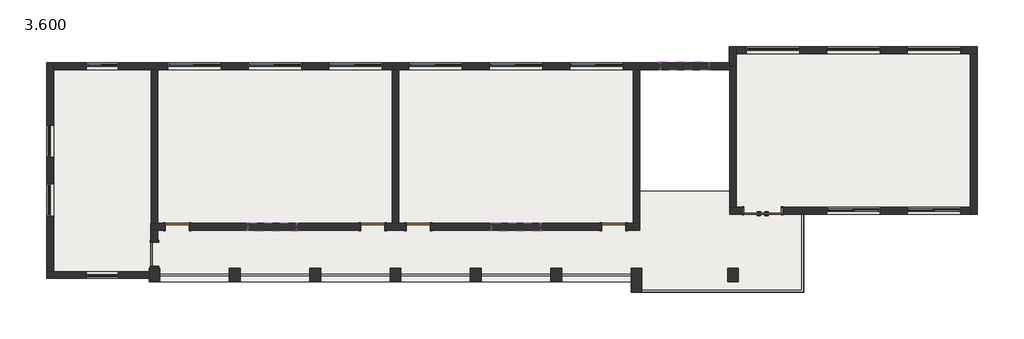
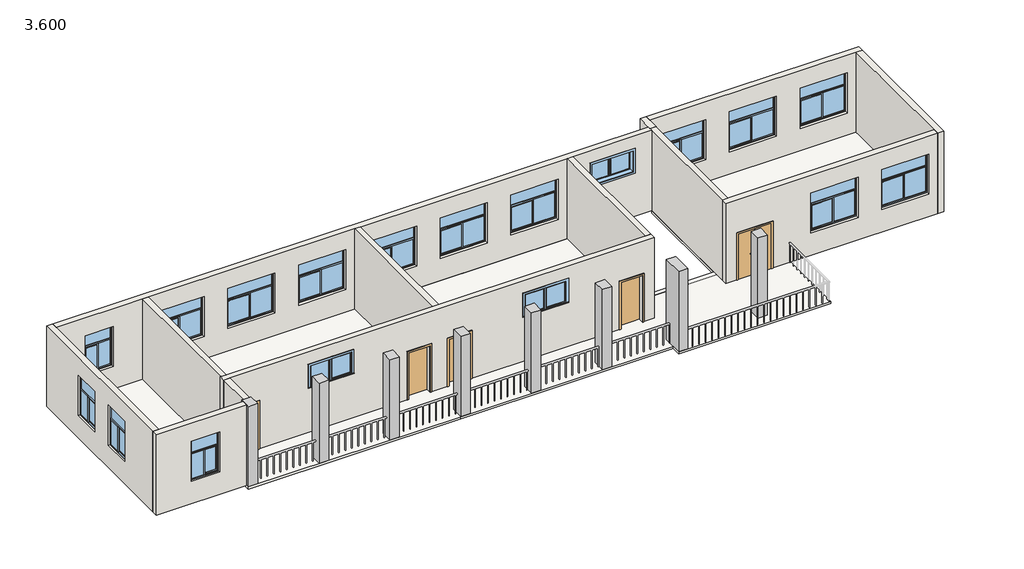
# One storey, part 1 of 2: 18 windows, 13 walls, 8 columns, 6 doors, 1 beam, 1 slab.
"""IFC4 building model written with IfcOpenShell, lengths in millimetres."""

from ifc_helpers import new_model, si_unit, frame, origin, place, context, project, spatial, polyline, outline, extrude, faceted_brep, transform, mapped, element, save
from components import beam_200mmx150mm_381acce5, column_400x500mm_a61c753e, column_400x900mm_5f92045b, m1_f3cb3123, m1_ab81c9c2, m2_54796214, c1_54542c8d, c2_93fe3833, c3_c6347dd0

model = new_model("IFC4")

# Units and contexts
model_context = context("Model", 3, world=origin())
ifc_project = project(units=[si_unit("LENGTHUNIT", "METRE", prefix="MILLI")], contexts=[model_context])

# Site, building, storey
site = spatial("IfcSite", under=ifc_project)
building = spatial("IfcBuilding", under=site)
storey = spatial("IfcBuildingStorey", under=building, Name="3.600", Elevation=3600.0)

# Beam
placement = place(None, origin())
beam_200mmx150mm_shape = beam_200mmx150mm_381acce5(model_context)
element("IfcBeam", 1, ObjectType="混凝土 - 矩形梁 : 200mmX150mm", at=placement, inside=storey, context=model_context, shape_type="MappedRepresentation", body=[
    mapped(beam_200mmx150mm_shape, transform((353.9823355, -22918.2373497, 3425.0), x_axis=(1.0, 0.0, 0.0), y_axis=(0.0, 1.0, 0.0), z_axis=(0.0, 0.0, 1.0))),
])

# Columns
element("IfcColumn", 2, ObjectType="混凝土 - 矩形 - 柱 : 400X500mm", at=placement, inside=storey, context=model_context, shape_type="Brep", body=[
    faceted_brep([(-19259.1214542, -25688.2373497, 3600.0), (-19259.1214542, -26188.2373497, 3600.0), (-19659.1214542, -26188.2373497, 3600.0), (-19659.1214542, -26068.2373497, 3600.0), (-19659.1214542, -25808.2373497, 3600.0), (-19659.1214542, -25688.2373497, 3600.0), (-19589.1214542, -25688.2373497, 3600.0), (-19329.1214542, -25688.2373497, 3600.0), (-19259.1214542, -25688.2373497, 7200.0), (-19259.1214542, -26188.2373497, 7200.0), (-19659.1214542, -26188.2373497, 7200.0), (-19659.1214542, -26068.2373497, 7200.0), (-19659.1214542, -25808.2373497, 7200.0), (-19659.1214542, -25688.2373497, 7200.0), (-19589.1214542, -25688.2373497, 7200.0), (-19329.1214542, -25688.2373497, 7200.0)], [[[0, 1, 2, 3, 4, 5, 6, 7]], [[8, 9, 1, 0]], [[9, 10, 2, 1]], [[10, 11, 12, 13, 5, 4, 3, 2]], [[13, 14, 15, 8, 0, 7, 6, 5]], [[8, 15, 14, 13, 12, 11, 10, 9]]]),
])
column_400x500mm_shape = column_400x500mm_a61c753e(model_context)
element("IfcColumn", 3, ObjectType="混凝土 - 矩形 - 柱 : 400X500mm", at=placement, inside=storey, context=model_context, shape_type="MappedRepresentation", body=[
    mapped(column_400x500mm_shape, transform((-16459.1214542, -25938.2373497, 0.0), x_axis=(1.0, 0.0, 0.0), y_axis=(0.0, 1.0, 0.0), z_axis=(0.0, 0.0, 1.0))),
])
element("IfcColumn", 4, ObjectType="混凝土 - 矩形 - 柱 : 400X500mm", at=placement, inside=storey, context=model_context, shape_type="MappedRepresentation", body=[
    mapped(column_400x500mm_shape, transform((-13459.1214542, -25938.2373497, 0.0), x_axis=(1.0, 0.0, 0.0), y_axis=(0.0, 1.0, 0.0), z_axis=(0.0, 0.0, 1.0))),
])
element("IfcColumn", 5, ObjectType="混凝土 - 矩形 - 柱 : 400X500mm", at=placement, inside=storey, context=model_context, shape_type="MappedRepresentation", body=[
    mapped(column_400x500mm_shape, transform((-10459.1214542, -25938.2373497, 0.0), x_axis=(1.0, 0.0, 0.0), y_axis=(0.0, 1.0, 0.0), z_axis=(0.0, 0.0, 1.0))),
])
element("IfcColumn", 6, ObjectType="混凝土 - 矩形 - 柱 : 400X500mm", at=placement, inside=storey, context=model_context, shape_type="MappedRepresentation", body=[
    mapped(column_400x500mm_shape, transform((-7459.1214542, -25938.2373497, 0.0), x_axis=(1.0, 0.0, 0.0), y_axis=(0.0, 1.0, 0.0), z_axis=(0.0, 0.0, 1.0))),
])
element("IfcColumn", 7, ObjectType="混凝土 - 矩形 - 柱 : 400X500mm", at=placement, inside=storey, context=model_context, shape_type="MappedRepresentation", body=[
    mapped(column_400x500mm_shape, transform((-4459.1214542, -25938.2373497, 0.0), x_axis=(1.0, 0.0, 0.0), y_axis=(0.0, 1.0, 0.0), z_axis=(0.0, 0.0, 1.0))),
])
element("IfcColumn", 8, ObjectType="混凝土 - 矩形 - 柱 : 400X500mm", at=placement, inside=storey, context=model_context, shape_type="MappedRepresentation", body=[
    mapped(column_400x500mm_shape, transform((2140.8785458, -25938.2373497, 0.0), x_axis=(1.0, 0.0, 0.0), y_axis=(0.0, 1.0, 0.0), z_axis=(0.0, 0.0, 1.0))),
])
column_400x900mm_shape = column_400x900mm_5f92045b(model_context)
element("IfcColumn", 9, ObjectType="混凝土 - 矩形 - 柱 : 400X900mm", at=placement, inside=storey, context=model_context, shape_type="MappedRepresentation", body=[
    mapped(column_400x900mm_shape, transform((-1459.1214542, -26138.2373497, 0.0), x_axis=(1.0, 0.0, 0.0), y_axis=(0.0, 1.0, 0.0), z_axis=(0.0, 0.0, 1.0))),
])

# Doors
m1_shape = m1_f3cb3123(model_context)
element("IfcDoor", 10, ObjectType="单扇 - 与墙齐 : M1", at=placement, inside=storey, context=model_context, shape_type="MappedRepresentation", body=[
    mapped(m1_shape, transform((-18609.1214542, -24138.2373497, 3600.0), x_axis=(-1.0, 0.0, 0.0), y_axis=(0.0, -1.0, 0.0), z_axis=(0.0, 0.0, 1.0))),
])
element("IfcDoor", 11, ObjectType="单扇 - 与墙齐 : M1", at=placement, inside=storey, context=model_context, shape_type="MappedRepresentation", body=[
    mapped(m1_shape, transform((-9609.1214542, -24138.2373497, 3600.0), x_axis=(-1.0, 0.0, 0.0), y_axis=(0.0, -1.0, 0.0), z_axis=(0.0, 0.0, 1.0))),
])
element("IfcDoor", 12, ObjectType="单扇 - 与墙齐 : M1", at=placement, inside=storey, context=model_context, shape_type="MappedRepresentation", body=[
    mapped(m1_shape, transform((-19459.1214542, -25168.2373497, 3600.0), x_axis=(0.0, -1.0, 0.0), y_axis=(1.0, 0.0, 0.0), z_axis=(0.0, 0.0, 1.0))),
])
m1_2_shape = m1_ab81c9c2(model_context)
element("IfcDoor", 13, ObjectType="单扇 - 与墙齐 : M1", at=placement, inside=storey, context=model_context, shape_type="MappedRepresentation", body=[
    mapped(m1_2_shape, transform((-11309.1214542, -24138.2373497, 3600.0), x_axis=(1.0, 0.0, 0.0), y_axis=(0.0, 1.0, 0.0), z_axis=(0.0, 0.0, 1.0))),
])
element("IfcDoor", 14, ObjectType="单扇 - 与墙齐 : M1", at=placement, inside=storey, context=model_context, shape_type="MappedRepresentation", body=[
    mapped(m1_2_shape, transform((-2309.1214542, -24138.2373497, 3600.0), x_axis=(1.0, 0.0, 0.0), y_axis=(0.0, 1.0, 0.0), z_axis=(0.0, 0.0, 1.0))),
])
m2_shape = m2_54796214(model_context)
element("IfcDoor", 15, ObjectType="双面嵌板木门 1 : M2", at=placement, inside=storey, context=model_context, shape_type="MappedRepresentation", body=[
    mapped(m2_shape, transform((3250.8785458, -23538.2373497, 3600.0), x_axis=(-1.0, 0.0, 0.0), y_axis=(0.0, -1.0, 0.0), z_axis=(0.0, 0.0, 1.0))),
])

# Slab
element("IfcSlab", 16, ObjectType="室内楼板", at=placement, inside=storey, context=model_context, shape_type="SweptSolid", body=[
    extrude(outline(polyline([(2260.8785458, -18268.2373497), (2260.8785458, -18138.2373497), (2270.8785458, -18138.2373497), (2270.8785458, -17668.2373497), (11010.8785458, -17668.2373497), (11010.8785458, -23408.2373497), (4790.8785458, -23408.2373497), (4790.8785458, -26588.2373497), (-1659.1214542, -26588.2373497), (-1659.1214542, -26188.2373497), (-10659.1214542, -26188.2373497), (-19659.1214542, -26188.2373497), (-19659.1214542, -25808.2373497), (-23229.1214542, -25808.2373497), (-23229.1214542, -18268.2373497), (-1339.1214542, -18268.2373497), (-1339.1214542, -22818.2373497), (2020.8785458, -22818.2373497), (2020.8785458, -18268.2373497), (2260.8785458, -18268.2373497)])), frame((0.0, 0.0, 3500.0), z_axis=(0.0, 0.0, 1.0), x_axis=(1.0, 0.0, 0.0)), (0.0, 0.0, 1.0), 100.0),
])

# Walls
element("IfcWall", 17, ObjectType="外墙", at=placement, inside=storey, context=model_context, shape_type="Brep", body=[
    faceted_brep([(-23489.1214542, -25808.2373497, 3600.0), (-23489.1214542, -25808.2373497, 7200.0), (-23229.1214542, -25808.2373497, 7200.0), (-19659.1214542, -25808.2373497, 7200.0), (-19659.1214542, -25808.2373497, 3600.0), (-23229.1214542, -25808.2373497, 3600.0), (-20809.1214542, -25808.2373497, 4600.0), (-20809.1214542, -25808.2373497, 6400.0), (-22009.1214542, -25808.2373497, 6400.0), (-22009.1214542, -25808.2373497, 4600.0), (-23489.1214542, -26068.2373497, 7200.0), (-23489.1214542, -26068.2373497, 3600.0), (-19659.1214542, -26068.2373497, 3600.0), (-19659.1214542, -26068.2373497, 7200.0), (-20809.1214542, -26068.2373497, 6400.0), (-20809.1214542, -26068.2373497, 4600.0), (-22009.1214542, -26068.2373497, 4600.0), (-22009.1214542, -26068.2373497, 6400.0)], [[[0, 1, 2, 3, 4, 5], [6, 7, 8, 9]], [[10, 11, 12, 13], [14, 15, 16, 17]], [[11, 0, 5, 4, 12]], [[1, 10, 13, 3, 2]], [[1, 0, 11, 10]], [[4, 3, 13, 12]], [[7, 6, 15, 14]], [[8, 7, 14, 17]], [[9, 8, 17, 16]], [[6, 9, 16, 15]]]),
])
element("IfcWall", 18, ObjectType="外墙", at=placement, inside=storey, context=model_context, shape_type="Brep", body=[
    faceted_brep([(-23229.1214542, -25808.2373497, 3600.0), (-23229.1214542, -18268.2373497, 3600.0), (-23229.1214542, -18008.2373497, 3600.0), (-23229.1214542, -18008.2373497, 7200.0), (-23229.1214542, -18268.2373497, 7200.0), (-23229.1214542, -25808.2373497, 7200.0), (-23229.1214542, -21538.2373497, 4600.0), (-23229.1214542, -21538.2373497, 6400.0), (-23229.1214542, -20338.2373497, 6400.0), (-23229.1214542, -20338.2373497, 4600.0), (-23229.1214542, -23738.2373497, 4600.0), (-23229.1214542, -23738.2373497, 6400.0), (-23229.1214542, -22538.2373497, 6400.0), (-23229.1214542, -22538.2373497, 4600.0), (-23489.1214542, -25808.2373497, 3600.0), (-23489.1214542, -25808.2373497, 7200.0), (-23489.1214542, -18008.2373497, 7200.0), (-23489.1214542, -18008.2373497, 3600.0), (-23489.1214542, -21538.2373497, 4600.0), (-23489.1214542, -20338.2373497, 4600.0), (-23489.1214542, -20338.2373497, 6400.0), (-23489.1214542, -21538.2373497, 6400.0), (-23489.1214542, -23738.2373497, 4600.0), (-23489.1214542, -22538.2373497, 4600.0), (-23489.1214542, -22538.2373497, 6400.0), (-23489.1214542, -23738.2373497, 6400.0)], [[[0, 1, 2, 3, 4, 5], [6, 7, 8, 9], [10, 11, 12, 13]], [[14, 15, 16, 17], [18, 19, 20, 21], [22, 23, 24, 25]], [[2, 1, 0, 14, 17]], [[5, 4, 3, 16, 15]], [[0, 5, 15, 14]], [[3, 2, 17, 16]], [[7, 6, 18, 21]], [[8, 7, 21, 20]], [[9, 8, 20, 19]], [[6, 9, 19, 18]], [[11, 10, 22, 25]], [[12, 11, 25, 24]], [[13, 12, 24, 23]], [[10, 13, 23, 22]]]),
])
element("IfcWall", 19, ObjectType="外墙", at=placement, inside=storey, context=model_context, shape_type="Brep", body=[
    faceted_brep([(-23229.1214542, -18268.2373497, 3600.0), (-19579.1214542, -18268.2373497, 3600.0), (-19339.1214542, -18268.2373497, 3600.0), (-10579.1214542, -18268.2373497, 3600.0), (-10339.1214542, -18268.2373497, 3600.0), (-1579.1214542, -18268.2373497, 3600.0), (-1339.1214542, -18268.2373497, 3600.0), (2020.8785458, -18268.2373497, 3600.0), (2020.8785458, -18268.2373497, 7200.0), (-1339.1214542, -18268.2373497, 7200.0), (-1579.1214542, -18268.2373497, 7200.0), (-10339.1214542, -18268.2373497, 7200.0), (-10579.1214542, -18268.2373497, 7200.0), (-19339.1214542, -18268.2373497, 7200.0), (-19579.1214542, -18268.2373497, 7200.0), (-23229.1214542, -18268.2373497, 7200.0), (-22009.1214542, -18268.2373497, 4600.0), (-22009.1214542, -18268.2373497, 6400.0), (-20809.1214542, -18268.2373497, 6400.0), (-20809.1214542, -18268.2373497, 4600.0), (-18959.1214542, -18268.2373497, 4600.0), (-18959.1214542, -18268.2373497, 6400.0), (-16959.1214542, -18268.2373497, 6400.0), (-16959.1214542, -18268.2373497, 4600.0), (-15959.1214542, -18268.2373497, 4600.0), (-15959.1214542, -18268.2373497, 6400.0), (-13959.1214542, -18268.2373497, 6400.0), (-13959.1214542, -18268.2373497, 4600.0), (-12959.1214542, -18268.2373497, 4600.0), (-12959.1214542, -18268.2373497, 6400.0), (-10959.1214542, -18268.2373497, 6400.0), (-10959.1214542, -18268.2373497, 4600.0), (-9959.1214542, -18268.2373497, 4600.0), (-9959.1214542, -18268.2373497, 6400.0), (-7959.1214542, -18268.2373497, 6400.0), (-7959.1214542, -18268.2373497, 4600.0), (-6959.1214542, -18268.2373497, 4600.0), (-6959.1214542, -18268.2373497, 6400.0), (-4959.1214542, -18268.2373497, 6400.0), (-4959.1214542, -18268.2373497, 4600.0), (-3959.1214542, -18268.2373497, 4600.0), (-3959.1214542, -18268.2373497, 6400.0), (-1959.1214542, -18268.2373497, 6400.0), (-1959.1214542, -18268.2373497, 4600.0), (1240.8785458, -18268.2373497, 6600.0), (1240.8785458, -18268.2373497, 5600.0), (-559.1214542, -18268.2373497, 5600.0), (-559.1214542, -18268.2373497, 6600.0), (-23229.1214542, -18008.2373497, 3600.0), (-23229.1214542, -18008.2373497, 7200.0), (2010.8785458, -18008.2373497, 7200.0), (2010.8785458, -18008.2373497, 3600.0), (-22009.1214542, -18008.2373497, 4600.0), (-20809.1214542, -18008.2373497, 4600.0), (-20809.1214542, -18008.2373497, 6400.0), (-22009.1214542, -18008.2373497, 6400.0), (-18959.1214542, -18008.2373497, 4600.0), (-16959.1214542, -18008.2373497, 4600.0), (-16959.1214542, -18008.2373497, 6400.0), (-18959.1214542, -18008.2373497, 6400.0), (-15959.1214542, -18008.2373497, 4600.0), (-13959.1214542, -18008.2373497, 4600.0), (-13959.1214542, -18008.2373497, 6400.0), (-15959.1214542, -18008.2373497, 6400.0), (-12959.1214542, -18008.2373497, 4600.0), (-10959.1214542, -18008.2373497, 4600.0), (-10959.1214542, -18008.2373497, 6400.0), (-12959.1214542, -18008.2373497, 6400.0), (-9959.1214542, -18008.2373497, 4600.0), (-7959.1214542, -18008.2373497, 4600.0), (-7959.1214542, -18008.2373497, 6400.0), (-9959.1214542, -18008.2373497, 6400.0), (-6959.1214542, -18008.2373497, 4600.0), (-4959.1214542, -18008.2373497, 4600.0), (-4959.1214542, -18008.2373497, 6400.0), (-6959.1214542, -18008.2373497, 6400.0), (-3959.1214542, -18008.2373497, 4600.0), (-1959.1214542, -18008.2373497, 4600.0), (-1959.1214542, -18008.2373497, 6400.0), (-3959.1214542, -18008.2373497, 6400.0), (1240.8785458, -18008.2373497, 6600.0), (-559.1214542, -18008.2373497, 6600.0), (-559.1214542, -18008.2373497, 5600.0), (1240.8785458, -18008.2373497, 5600.0), (2010.8785458, -18138.2373497, 3600.0), (2020.8785458, -18138.2373497, 3600.0), (2020.8785458, -18138.2373497, 7200.0), (2010.8785458, -18138.2373497, 7200.0)], [[[0, 1, 2, 3, 4, 5, 6, 7, 8, 9, 10, 11, 12, 13, 14, 15], [16, 17, 18, 19], [20, 21, 22, 23], [24, 25, 26, 27], [28, 29, 30, 31], [32, 33, 34, 35], [36, 37, 38, 39], [40, 41, 42, 43], [44, 45, 46, 47]], [[48, 49, 50, 51], [52, 53, 54, 55], [56, 57, 58, 59], [60, 61, 62, 63], [64, 65, 66, 67], [68, 69, 70, 71], [72, 73, 74, 75], [76, 77, 78, 79], [80, 81, 82, 83]], [[7, 6, 5, 4, 3, 2, 1, 0, 48, 51, 84, 85]], [[15, 14, 13, 12, 11, 10, 9, 8, 86, 87, 50, 49]], [[0, 15, 49, 48]], [[8, 7, 85, 86]], [[85, 84, 87, 86]], [[84, 51, 50, 87]], [[17, 16, 52, 55]], [[18, 17, 55, 54]], [[19, 18, 54, 53]], [[16, 19, 53, 52]], [[21, 20, 56, 59]], [[22, 21, 59, 58]], [[23, 22, 58, 57]], [[20, 23, 57, 56]], [[25, 24, 60, 63]], [[26, 25, 63, 62]], [[27, 26, 62, 61]], [[24, 27, 61, 60]], [[29, 28, 64, 67]], [[30, 29, 67, 66]], [[31, 30, 66, 65]], [[28, 31, 65, 64]], [[33, 32, 68, 71]], [[34, 33, 71, 70]], [[35, 34, 70, 69]], [[32, 35, 69, 68]], [[37, 36, 72, 75]], [[38, 37, 75, 74]], [[39, 38, 74, 73]], [[36, 39, 73, 72]], [[41, 40, 76, 79]], [[42, 41, 79, 78]], [[43, 42, 78, 77]], [[40, 43, 77, 76]], [[45, 44, 80, 83]], [[46, 45, 83, 82]], [[47, 46, 82, 81]], [[44, 47, 81, 80]]]),
])
element("IfcWall", 20, ObjectType="外墙", at=placement, inside=storey, context=model_context, shape_type="Brep", body=[
    faceted_brep([(11010.8785458, -17668.2373497, 3600.0), (11010.8785458, -23408.2373497, 3600.0), (11010.8785458, -23668.2373497, 3600.0), (11010.8785458, -23668.2373497, 7200.0), (11010.8785458, -23408.2373497, 7200.0), (11010.8785458, -17668.2373497, 7200.0), (11270.8785458, -17668.2373497, 3600.0), (11270.8785458, -17668.2373497, 7200.0), (11270.8785458, -23668.2373497, 7200.0), (11270.8785458, -23668.2373497, 3600.0)], [[[0, 1, 2, 3, 4, 5]], [[6, 7, 8, 9]], [[2, 1, 0, 6, 9]], [[5, 4, 3, 8, 7]], [[3, 2, 9, 8]], [[0, 5, 7, 6]]]),
])
element("IfcWall", 21, ObjectType="外墙", at=placement, inside=storey, context=model_context, shape_type="Brep", body=[
    faceted_brep([(2020.8785458, -23408.2373497, 7200.0), (2260.8785458, -23408.2373497, 7200.0), (11010.8785458, -23408.2373497, 7200.0), (11010.8785458, -23408.2373497, 3600.0), (4000.8785458, -23408.2373497, 3600.0), (4000.8785458, -23408.2373497, 5700.0), (2500.8785458, -23408.2373497, 5700.0), (2500.8785458, -23408.2373497, 3600.0), (2260.8785458, -23408.2373497, 3600.0), (2020.8785458, -23408.2373497, 3600.0), (8640.8785458, -23408.2373497, 4600.0), (10640.8785458, -23408.2373497, 4600.0), (10640.8785458, -23408.2373497, 6400.0), (8640.8785458, -23408.2373497, 6400.0), (5640.8785458, -23408.2373497, 4600.0), (7640.8785458, -23408.2373497, 4600.0), (7640.8785458, -23408.2373497, 6400.0), (5640.8785458, -23408.2373497, 6400.0), (11010.8785458, -23668.2373497, 7200.0), (2020.8785458, -23668.2373497, 7200.0), (2020.8785458, -23668.2373497, 3600.0), (2500.8785458, -23668.2373497, 3600.0), (2500.8785458, -23668.2373497, 5700.0), (4000.8785458, -23668.2373497, 5700.0), (4000.8785458, -23668.2373497, 3600.0), (11010.8785458, -23668.2373497, 3600.0), (8640.8785458, -23668.2373497, 4600.0), (8640.8785458, -23668.2373497, 6400.0), (10640.8785458, -23668.2373497, 6400.0), (10640.8785458, -23668.2373497, 4600.0), (5640.8785458, -23668.2373497, 4600.0), (5640.8785458, -23668.2373497, 6400.0), (7640.8785458, -23668.2373497, 6400.0), (7640.8785458, -23668.2373497, 4600.0)], [[[0, 1, 2, 3, 4, 5, 6, 7, 8, 9], [10, 11, 12, 13], [14, 15, 16, 17]], [[18, 19, 20, 21, 22, 23, 24, 25], [26, 27, 28, 29], [30, 31, 32, 33]], [[3, 25, 24, 4]], [[20, 9, 8, 7, 21]], [[2, 1, 0, 19, 18]], [[3, 2, 18, 25]], [[0, 9, 20, 19]], [[6, 22, 21, 7]], [[22, 6, 5, 23]], [[23, 5, 4, 24]], [[27, 26, 10, 13]], [[28, 27, 13, 12]], [[29, 28, 12, 11]], [[26, 29, 11, 10]], [[31, 30, 14, 17]], [[32, 31, 17, 16]], [[33, 32, 16, 15]], [[30, 33, 15, 14]]]),
])
element("IfcWall", 22, ObjectType="外墙", at=placement, inside=storey, context=model_context, shape_type="Brep", body=[
    faceted_brep([(-1339.1214542, -24008.2373497, 3600.0), (-1579.1214542, -24008.2373497, 3600.0), (-1859.1214542, -24008.2373497, 3600.0), (-1859.1214542, -24008.2373497, 5700.0), (-2759.1214542, -24008.2373497, 5700.0), (-2759.1214542, -24008.2373497, 3600.0), (-9159.1214542, -24008.2373497, 3600.0), (-9159.1214542, -24008.2373497, 5700.0), (-10059.1214542, -24008.2373497, 5700.0), (-10059.1214542, -24008.2373497, 3600.0), (-10339.1214542, -24008.2373497, 3600.0), (-10579.1214542, -24008.2373497, 3600.0), (-10859.1214542, -24008.2373497, 3600.0), (-10859.1214542, -24008.2373497, 5700.0), (-11759.1214542, -24008.2373497, 5700.0), (-11759.1214542, -24008.2373497, 3600.0), (-18159.1214542, -24008.2373497, 3600.0), (-18159.1214542, -24008.2373497, 5700.0), (-19059.1214542, -24008.2373497, 5700.0), (-19059.1214542, -24008.2373497, 3600.0), (-19339.1214542, -24008.2373497, 3600.0), (-19579.1214542, -24008.2373497, 3600.0), (-19589.1214542, -24008.2373497, 3600.0), (-19589.1214542, -24008.2373497, 7200.0), (-19579.1214542, -24008.2373497, 7200.0), (-19339.1214542, -24008.2373497, 7200.0), (-10579.1214542, -24008.2373497, 7200.0), (-10339.1214542, -24008.2373497, 7200.0), (-1579.1214542, -24008.2373497, 7200.0), (-1339.1214542, -24008.2373497, 7200.0), (-15959.1214542, -24008.2373497, 6600.0), (-15959.1214542, -24008.2373497, 5600.0), (-14159.1214542, -24008.2373497, 5600.0), (-14159.1214542, -24008.2373497, 6600.0), (-6859.1214542, -24008.2373497, 6600.0), (-6859.1214542, -24008.2373497, 5600.0), (-5059.1214542, -24008.2373497, 5600.0), (-5059.1214542, -24008.2373497, 6600.0), (-1859.1214542, -24268.2373497, 5700.0), (-1859.1214542, -24268.2373497, 3600.0), (-1339.1214542, -24268.2373497, 3600.0), (-1339.1214542, -24268.2373497, 7200.0), (-19329.1214542, -24268.2373497, 7200.0), (-19589.1214542, -24268.2373497, 7200.0), (-19589.1214542, -24268.2373497, 3600.0), (-19329.1214542, -24268.2373497, 3600.0), (-19059.1214542, -24268.2373497, 3600.0), (-19059.1214542, -24268.2373497, 5700.0), (-18159.1214542, -24268.2373497, 5700.0), (-18159.1214542, -24268.2373497, 3600.0), (-11759.1214542, -24268.2373497, 3600.0), (-11759.1214542, -24268.2373497, 5700.0), (-10859.1214542, -24268.2373497, 5700.0), (-10859.1214542, -24268.2373497, 3600.0), (-10059.1214542, -24268.2373497, 3600.0), (-10059.1214542, -24268.2373497, 5700.0), (-9159.1214542, -24268.2373497, 5700.0), (-9159.1214542, -24268.2373497, 3600.0), (-2759.1214542, -24268.2373497, 3600.0), (-2759.1214542, -24268.2373497, 5700.0), (-15959.1214542, -24268.2373497, 6600.0), (-14159.1214542, -24268.2373497, 6600.0), (-14159.1214542, -24268.2373497, 5600.0), (-15959.1214542, -24268.2373497, 5600.0), (-6859.1214542, -24268.2373497, 6600.0), (-5059.1214542, -24268.2373497, 6600.0), (-5059.1214542, -24268.2373497, 5600.0), (-6859.1214542, -24268.2373497, 5600.0)], [[[0, 1, 2, 3, 4, 5, 6, 7, 8, 9, 10, 11, 12, 13, 14, 15, 16, 17, 18, 19, 20, 21, 22, 23, 24, 25, 26, 27, 28, 29], [30, 31, 32, 33], [34, 35, 36, 37]], [[38, 39, 40, 41, 42, 43, 44, 45, 46, 47, 48, 49, 50, 51, 52, 53, 54, 55, 56, 57, 58, 59], [60, 61, 62, 63], [64, 65, 66, 67]], [[22, 21, 20, 19, 46, 45, 44]], [[50, 49, 16, 15]], [[54, 53, 12, 11, 10, 9]], [[58, 57, 6, 5]], [[40, 39, 2, 1, 0]], [[29, 28, 27, 26, 25, 24, 23, 43, 42, 41]], [[23, 22, 44, 43]], [[47, 46, 19, 18]], [[48, 47, 18, 17]], [[49, 48, 17, 16]], [[31, 30, 60, 63]], [[32, 31, 63, 62]], [[33, 32, 62, 61]], [[30, 33, 61, 60]], [[55, 54, 9, 8]], [[56, 55, 8, 7]], [[57, 56, 7, 6]], [[13, 12, 53, 52]], [[14, 13, 52, 51]], [[15, 14, 51, 50]], [[35, 34, 64, 67]], [[36, 35, 67, 66]], [[37, 36, 66, 65]], [[34, 37, 65, 64]], [[3, 2, 39, 38]], [[4, 3, 38, 59]], [[5, 4, 59, 58]], [[0, 29, 41, 40]]]),
])
element("IfcWall", 23, ObjectType="外墙", at=placement, inside=storey, context=model_context, shape_type="SweptSolid", body=[
    extrude(outline(polyline([(-24268.2373497, 7200.0), (-24268.2373497, 3600.0), (-24718.2373497, 3600.0), (-24718.2373497, 5700.0), (-25618.2373497, 5700.0), (-25618.2373497, 3600.0), (-25688.2373497, 3600.0), (-25688.2373497, 7200.0), (-24268.2373497, 7200.0)])), frame((-19589.1214542, 0.0, 0.0), z_axis=(1.0, 0.0, 0.0), x_axis=(0.0, 1.0, 0.0)), (0.0, 0.0, 1.0), 260.0),
])
element("IfcWall", 24, ObjectType="内墙", at=placement, inside=storey, context=model_context, shape_type="SweptSolid", body=[
    extrude(outline(polyline([(-19579.1214542, -24008.2373497), (-19579.1214542, -18268.2373497), (-19339.1214542, -18268.2373497), (-19339.1214542, -24008.2373497), (-19579.1214542, -24008.2373497)])), frame((0.0, 0.0, 3600.0), z_axis=(0.0, 0.0, 1.0), x_axis=(1.0, 0.0, 0.0)), (0.0, 0.0, 1.0), 3600.0),
])
element("IfcWall", 25, ObjectType="内墙", at=placement, inside=storey, context=model_context, shape_type="SweptSolid", body=[
    extrude(outline(polyline([(-10579.1214542, -24008.2373497), (-10579.1214542, -18268.2373497), (-10339.1214542, -18268.2373497), (-10339.1214542, -24008.2373497), (-10579.1214542, -24008.2373497)])), frame((0.0, 0.0, 3600.0), z_axis=(0.0, 0.0, 1.0), x_axis=(1.0, 0.0, 0.0)), (0.0, 0.0, 1.0), 3600.0),
])
element("IfcWall", 26, ObjectType="内墙", at=placement, inside=storey, context=model_context, shape_type="SweptSolid", body=[
    extrude(outline(polyline([(-1579.1214542, -24008.2373497), (-1579.1214542, -18268.2373497), (-1339.1214542, -18268.2373497), (-1339.1214542, -24008.2373497), (-1579.1214542, -24008.2373497)])), frame((0.0, 0.0, 3600.0), z_axis=(0.0, 0.0, 1.0), x_axis=(1.0, 0.0, 0.0)), (0.0, 0.0, 1.0), 3600.0),
])
element("IfcWall", 27, ObjectType="内墙", at=placement, inside=storey, context=model_context, shape_type="Brep", body=[
    faceted_brep([(2020.8785458, -18138.2373497, 3600.0), (2020.8785458, -18268.2373497, 3600.0), (2020.8785458, -23408.2373497, 3600.0), (2020.8785458, -23408.2373497, 7200.0), (2020.8785458, -18268.2373497, 7200.0), (2020.8785458, -18138.2373497, 7200.0), (2260.8785458, -18138.2373497, 3600.0), (2260.8785458, -18138.2373497, 7200.0), (2260.8785458, -23408.2373497, 7200.0), (2260.8785458, -23408.2373497, 3600.0)], [[[0, 1, 2, 3, 4, 5]], [[6, 7, 8, 9]], [[2, 1, 0, 6, 9]], [[5, 4, 3, 8, 7]], [[0, 5, 7, 6]], [[3, 2, 9, 8]]]),
])
element("IfcWall", 28, ObjectType="外墙", at=placement, inside=storey, context=model_context, shape_type="Brep", body=[
    faceted_brep([(2270.8785458, -18138.2373497, 3600.0), (2270.8785458, -17668.2373497, 3600.0), (2270.8785458, -17408.2373497, 3600.0), (2270.8785458, -17408.2373497, 7200.0), (2270.8785458, -17668.2373497, 7200.0), (2270.8785458, -18138.2373497, 7200.0), (2010.8785458, -18138.2373497, 3600.0), (2010.8785458, -18138.2373497, 7200.0), (2010.8785458, -18008.2373497, 7200.0), (2010.8785458, -17408.2373497, 7200.0), (2010.8785458, -17408.2373497, 3600.0), (2010.8785458, -18008.2373497, 3600.0), (2260.8785458, -18138.2373497, 3600.0), (2020.8785458, -18138.2373497, 3600.0), (2020.8785458, -18138.2373497, 7200.0), (2260.8785458, -18138.2373497, 7200.0)], [[[0, 1, 2, 3, 4, 5]], [[6, 7, 8, 9, 10, 11]], [[2, 1, 0, 12, 13, 6, 11, 10]], [[5, 4, 3, 9, 8, 7, 14, 15]], [[0, 5, 15, 14, 7, 6, 13, 12]], [[3, 2, 10, 9]]]),
])
element("IfcWall", 29, ObjectType="外墙", at=placement, inside=storey, context=model_context, shape_type="Brep", body=[
    faceted_brep([(2270.8785458, -17668.2373497, 3600.0), (11010.8785458, -17668.2373497, 3600.0), (11270.8785458, -17668.2373497, 3600.0), (11270.8785458, -17668.2373497, 7200.0), (11010.8785458, -17668.2373497, 7200.0), (2270.8785458, -17668.2373497, 7200.0), (2640.8785458, -17668.2373497, 4600.0), (2640.8785458, -17668.2373497, 6400.0), (4640.8785458, -17668.2373497, 6400.0), (4640.8785458, -17668.2373497, 4600.0), (5640.8785458, -17668.2373497, 4600.0), (5640.8785458, -17668.2373497, 6400.0), (7640.8785458, -17668.2373497, 6400.0), (7640.8785458, -17668.2373497, 4600.0), (8640.8785458, -17668.2373497, 4600.0), (8640.8785458, -17668.2373497, 6400.0), (10640.8785458, -17668.2373497, 6400.0), (10640.8785458, -17668.2373497, 4600.0), (2270.8785458, -17408.2373497, 3600.0), (2270.8785458, -17408.2373497, 7200.0), (11270.8785458, -17408.2373497, 7200.0), (11270.8785458, -17408.2373497, 3600.0), (2640.8785458, -17408.2373497, 4600.0), (4640.8785458, -17408.2373497, 4600.0), (4640.8785458, -17408.2373497, 6400.0), (2640.8785458, -17408.2373497, 6400.0), (5640.8785458, -17408.2373497, 4600.0), (7640.8785458, -17408.2373497, 4600.0), (7640.8785458, -17408.2373497, 6400.0), (5640.8785458, -17408.2373497, 6400.0), (8640.8785458, -17408.2373497, 4600.0), (10640.8785458, -17408.2373497, 4600.0), (10640.8785458, -17408.2373497, 6400.0), (8640.8785458, -17408.2373497, 6400.0)], [[[0, 1, 2, 3, 4, 5], [6, 7, 8, 9], [10, 11, 12, 13], [14, 15, 16, 17]], [[18, 19, 20, 21], [22, 23, 24, 25], [26, 27, 28, 29], [30, 31, 32, 33]], [[2, 1, 0, 18, 21]], [[5, 4, 3, 20, 19]], [[0, 5, 19, 18]], [[3, 2, 21, 20]], [[7, 6, 22, 25]], [[8, 7, 25, 24]], [[9, 8, 24, 23]], [[6, 9, 23, 22]], [[11, 10, 26, 29]], [[12, 11, 29, 28]], [[13, 12, 28, 27]], [[10, 13, 27, 26]], [[15, 14, 30, 33]], [[16, 15, 33, 32]], [[17, 16, 32, 31]], [[14, 17, 31, 30]]]),
])

# Windows
c1_shape = c1_54542c8d(model_context)
element("IfcWindow", 30, ObjectType="组合窗 - 双层单列(固定+推拉) : C1", at=placement, inside=storey, context=model_context, shape_type="MappedRepresentation", body=[
    mapped(c1_shape, transform((-21409.1214542, -25938.2373497, 3600.0), x_axis=(-1.0, 0.0, 0.0), y_axis=(0.0, -1.0, 0.0), z_axis=(0.0, 0.0, 1.0))),
])
element("IfcWindow", 31, ObjectType="组合窗 - 双层单列(固定+推拉) : C1", at=placement, inside=storey, context=model_context, shape_type="MappedRepresentation", body=[
    mapped(c1_shape, transform((-21409.1214542, -18138.2373497, 3600.0), x_axis=(1.0, 0.0, 0.0), y_axis=(0.0, 1.0, 0.0), z_axis=(0.0, 0.0, 1.0))),
])
element("IfcWindow", 32, ObjectType="组合窗 - 双层单列(固定+推拉) : C1", at=placement, inside=storey, context=model_context, shape_type="MappedRepresentation", body=[
    mapped(c1_shape, transform((-23359.1214542, -20938.2373497, 3600.0), x_axis=(0.0, 1.0, 0.0), y_axis=(-1.0, 0.0, 0.0), z_axis=(0.0, 0.0, 1.0))),
])
element("IfcWindow", 33, ObjectType="组合窗 - 双层单列(固定+推拉) : C1", at=placement, inside=storey, context=model_context, shape_type="MappedRepresentation", body=[
    mapped(c1_shape, transform((-23359.1214542, -23138.2373497, 3600.0), x_axis=(0.0, 1.0, 0.0), y_axis=(-1.0, 0.0, 0.0), z_axis=(0.0, 0.0, 1.0))),
])
c2_shape = c2_93fe3833(model_context)
element("IfcWindow", 34, ObjectType="组合窗 - 双层单列(固定+推拉) : C2", at=placement, inside=storey, context=model_context, shape_type="MappedRepresentation", body=[
    mapped(c2_shape, transform((-17959.1214542, -18138.2373497, 3600.0), x_axis=(1.0, 0.0, 0.0), y_axis=(0.0, 1.0, 0.0), z_axis=(0.0, 0.0, 1.0))),
])
element("IfcWindow", 35, ObjectType="组合窗 - 双层单列(固定+推拉) : C2", at=placement, inside=storey, context=model_context, shape_type="MappedRepresentation", body=[
    mapped(c2_shape, transform((-14959.1214542, -18138.2373497, 3600.0), x_axis=(1.0, 0.0, 0.0), y_axis=(0.0, 1.0, 0.0), z_axis=(0.0, 0.0, 1.0))),
])
element("IfcWindow", 36, ObjectType="组合窗 - 双层单列(固定+推拉) : C2", at=placement, inside=storey, context=model_context, shape_type="MappedRepresentation", body=[
    mapped(c2_shape, transform((-11959.1214542, -18138.2373497, 3600.0), x_axis=(1.0, 0.0, 0.0), y_axis=(0.0, 1.0, 0.0), z_axis=(0.0, 0.0, 1.0))),
])
element("IfcWindow", 37, ObjectType="组合窗 - 双层单列(固定+推拉) : C2", at=placement, inside=storey, context=model_context, shape_type="MappedRepresentation", body=[
    mapped(c2_shape, transform((-8959.1214542, -18138.2373497, 3600.0), x_axis=(1.0, 0.0, 0.0), y_axis=(0.0, 1.0, 0.0), z_axis=(0.0, 0.0, 1.0))),
])
element("IfcWindow", 38, ObjectType="组合窗 - 双层单列(固定+推拉) : C2", at=placement, inside=storey, context=model_context, shape_type="MappedRepresentation", body=[
    mapped(c2_shape, transform((-5959.1214542, -18138.2373497, 3600.0), x_axis=(1.0, 0.0, 0.0), y_axis=(0.0, 1.0, 0.0), z_axis=(0.0, 0.0, 1.0))),
])
element("IfcWindow", 39, ObjectType="组合窗 - 双层单列(固定+推拉) : C2", at=placement, inside=storey, context=model_context, shape_type="MappedRepresentation", body=[
    mapped(c2_shape, transform((-2959.1214542, -18138.2373497, 3600.0), x_axis=(1.0, 0.0, 0.0), y_axis=(0.0, 1.0, 0.0), z_axis=(0.0, 0.0, 1.0))),
])
element("IfcWindow", 40, ObjectType="组合窗 - 双层单列(固定+推拉) : C2", at=placement, inside=storey, context=model_context, shape_type="MappedRepresentation", body=[
    mapped(c2_shape, transform((3640.8785458, -17538.2373497, 3600.0), x_axis=(1.0, 0.0, 0.0), y_axis=(0.0, 1.0, 0.0), z_axis=(0.0, 0.0, 1.0))),
])
element("IfcWindow", 41, ObjectType="组合窗 - 双层单列(固定+推拉) : C2", at=placement, inside=storey, context=model_context, shape_type="MappedRepresentation", body=[
    mapped(c2_shape, transform((6640.8785458, -17538.2373497, 3600.0), x_axis=(1.0, 0.0, 0.0), y_axis=(0.0, 1.0, 0.0), z_axis=(0.0, 0.0, 1.0))),
])
element("IfcWindow", 42, ObjectType="组合窗 - 双层单列(固定+推拉) : C2", at=placement, inside=storey, context=model_context, shape_type="MappedRepresentation", body=[
    mapped(c2_shape, transform((9640.8785458, -17538.2373497, 3600.0), x_axis=(1.0, 0.0, 0.0), y_axis=(0.0, 1.0, 0.0), z_axis=(0.0, 0.0, 1.0))),
])
element("IfcWindow", 43, ObjectType="组合窗 - 双层单列(固定+推拉) : C2", at=placement, inside=storey, context=model_context, shape_type="MappedRepresentation", body=[
    mapped(c2_shape, transform((6640.8785458, -23538.2373497, 3600.0), x_axis=(1.0, 0.0, 0.0), y_axis=(0.0, 1.0, 0.0), z_axis=(0.0, 0.0, 1.0))),
])
element("IfcWindow", 44, ObjectType="组合窗 - 双层单列(固定+推拉) : C2", at=placement, inside=storey, context=model_context, shape_type="MappedRepresentation", body=[
    mapped(c2_shape, transform((9640.8785458, -23538.2373497, 3600.0), x_axis=(1.0, 0.0, 0.0), y_axis=(0.0, 1.0, 0.0), z_axis=(0.0, 0.0, 1.0))),
])
c3_shape = c3_c6347dd0(model_context)
element("IfcWindow", 45, ObjectType="双扇平开 - 带贴面 : C3", at=placement, inside=storey, context=model_context, shape_type="MappedRepresentation", body=[
    mapped(c3_shape, transform((340.8785458, -18138.2373497, 3599.0), x_axis=(1.0, 0.0, 0.0), y_axis=(0.0, 1.0, 0.0), z_axis=(0.0, 0.0, 1.0))),
])
element("IfcWindow", 46, ObjectType="双扇平开 - 带贴面 : C3", at=placement, inside=storey, context=model_context, shape_type="MappedRepresentation", body=[
    mapped(c3_shape, transform((-15059.1214542, -24138.2373497, 3599.0), x_axis=(-1.0, 0.0, 0.0), y_axis=(0.0, -1.0, 0.0), z_axis=(0.0, 0.0, 1.0))),
])
element("IfcWindow", 47, ObjectType="双扇平开 - 带贴面 : C3", at=placement, inside=storey, context=model_context, shape_type="MappedRepresentation", body=[
    mapped(c3_shape, transform((-5959.1214542, -24138.2373497, 3599.0), x_axis=(-1.0, 0.0, 0.0), y_axis=(0.0, -1.0, 0.0), z_axis=(0.0, 0.0, 1.0))),
])

save(model, "model.ifc")
